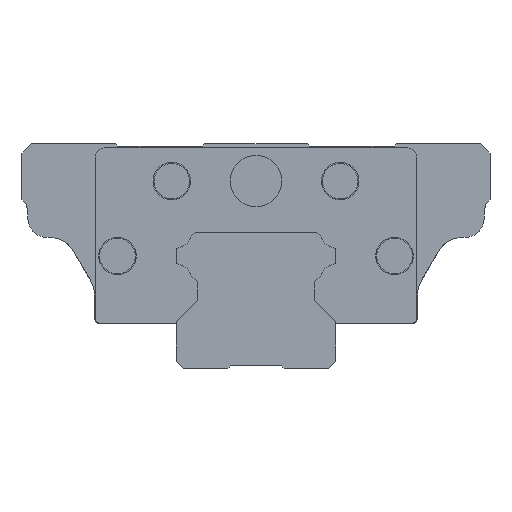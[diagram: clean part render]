
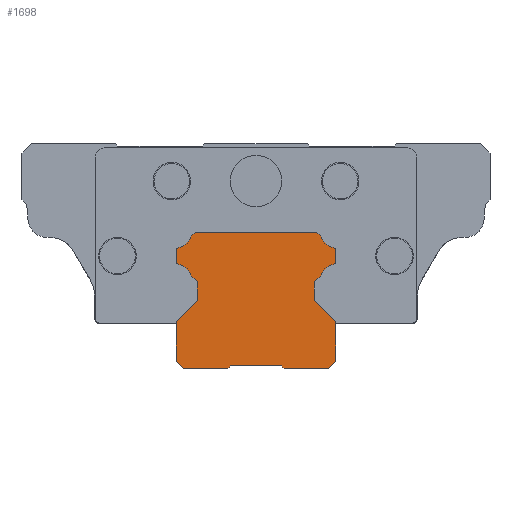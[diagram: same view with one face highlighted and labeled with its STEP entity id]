
A CAD part, left-side view. The second image highlights one B-rep face of the part: STEP entity #1698.
In plain terms, the highlighted planar face has unit normal (-1, 0, 0).
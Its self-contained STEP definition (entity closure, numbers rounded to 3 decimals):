
#758=CARTESIAN_POINT('',(0.0,-17.0,10.0));
#759=VERTEX_POINT('',#758);
#766=CARTESIAN_POINT('',(0.0,-17.0,1.5));
#767=VERTEX_POINT('',#766);
#768=CARTESIAN_POINT('',(0.0,-17.0,10.0));
#769=DIRECTION('',(0.0,0.0,-1.0));
#770=VECTOR('',#769,8.5);
#771=LINE('',#768,#770);
#772=EDGE_CURVE('',#759,#767,#771,.T.);
#796=CARTESIAN_POINT('',(0.0,-12.5,14.5));
#797=VERTEX_POINT('',#796);
#804=CARTESIAN_POINT('',(0.0,-12.5,14.5));
#805=DIRECTION('',(0.0,-0.707,-0.707));
#806=VECTOR('',#805,6.364);
#807=LINE('',#804,#806);
#808=EDGE_CURVE('',#797,#759,#807,.T.);
#827=CARTESIAN_POINT('',(0.0,-12.5,18.5));
#828=VERTEX_POINT('',#827);
#835=CARTESIAN_POINT('',(0.0,-12.5,18.5));
#836=DIRECTION('',(0.0,0.0,-1.0));
#837=VECTOR('',#836,4.);
#838=LINE('',#835,#837);
#839=EDGE_CURVE('',#828,#797,#838,.T.);
#858=CARTESIAN_POINT('',(0.0,-13.962,19.962));
#859=VERTEX_POINT('',#858);
#866=CARTESIAN_POINT('',(0.0,-13.962,19.962));
#867=DIRECTION('',(0.0,0.707,-0.707));
#868=VECTOR('',#867,2.068);
#869=LINE('',#866,#868);
#870=EDGE_CURVE('',#859,#828,#869,.T.);
#890=CARTESIAN_POINT('',(0.0,-16.469,22.156));
#891=VERTEX_POINT('',#890);
#898=CARTESIAN_POINT('',(0.0,-17.094,18.914));
#899=DIRECTION('',(-1.,0.0,0.0));
#900=DIRECTION('',(0.0,-0.948,-0.317));
#901=AXIS2_PLACEMENT_3D('',#898,#899,#900);
#902=CIRCLE('',#901,3.302);
#903=EDGE_CURVE('',#891,#859,#902,.T.);
#923=CARTESIAN_POINT('',(0.0,-17.0,22.796));
#924=VERTEX_POINT('',#923);
#931=CARTESIAN_POINT('',(0.0,-16.35,22.796));
#932=DIRECTION('',(1.0,0.0,0.0));
#933=DIRECTION('',(0.0,-1.0,0.0));
#934=AXIS2_PLACEMENT_3D('',#931,#932,#933);
#935=CIRCLE('',#934,0.65);
#936=EDGE_CURVE('',#924,#891,#935,.T.);
#955=CARTESIAN_POINT('',(0.0,-17.0,25.204));
#956=VERTEX_POINT('',#955);
#963=CARTESIAN_POINT('',(0.0,-17.0,25.204));
#964=DIRECTION('',(0.0,0.0,-1.0));
#965=VECTOR('',#964,2.409);
#966=LINE('',#963,#965);
#967=EDGE_CURVE('',#956,#924,#966,.T.);
#987=CARTESIAN_POINT('',(0.0,-16.469,25.843));
#988=VERTEX_POINT('',#987);
#995=CARTESIAN_POINT('',(0.0,-16.35,25.204));
#996=DIRECTION('',(1.,0.0,0.0));
#997=DIRECTION('',(0.0,-0.182,0.983));
#998=AXIS2_PLACEMENT_3D('',#995,#996,#997);
#999=CIRCLE('',#998,0.65);
#1000=EDGE_CURVE('',#988,#956,#999,.T.);
#1020=CARTESIAN_POINT('',(0.0,-13.962,28.038));
#1021=VERTEX_POINT('',#1020);
#1028=CARTESIAN_POINT('',(0.0,-17.094,29.086));
#1029=DIRECTION('',(-1.,0.0,0.0));
#1030=DIRECTION('',(0.0,-0.189,0.982));
#1031=AXIS2_PLACEMENT_3D('',#1028,#1029,#1030);
#1032=CIRCLE('',#1031,3.302);
#1033=EDGE_CURVE('',#1021,#988,#1032,.T.);
#1052=CARTESIAN_POINT('',(0.0,-13.,29.));
#1053=VERTEX_POINT('',#1052);
#1060=CARTESIAN_POINT('',(0.0,-13.,29.));
#1061=DIRECTION('',(0.0,-0.707,-0.707));
#1062=VECTOR('',#1061,1.361);
#1063=LINE('',#1060,#1062);
#1064=EDGE_CURVE('',#1053,#1021,#1063,.T.);
#1083=CARTESIAN_POINT('',(0.0,13.,29.));
#1084=VERTEX_POINT('',#1083);
#1091=CARTESIAN_POINT('',(0.0,13.,29.));
#1092=DIRECTION('',(0.0,-1.0,0.0));
#1093=VECTOR('',#1092,26.);
#1094=LINE('',#1091,#1093);
#1095=EDGE_CURVE('',#1084,#1053,#1094,.T.);
#1132=CARTESIAN_POINT('',(0.0,13.962,28.038));
#1133=VERTEX_POINT('',#1132);
#1140=CARTESIAN_POINT('',(0.0,13.962,28.038));
#1141=DIRECTION('',(0.0,-0.707,0.707));
#1142=VECTOR('',#1141,1.361);
#1143=LINE('',#1140,#1142);
#1144=EDGE_CURVE('',#1133,#1084,#1143,.T.);
#1164=CARTESIAN_POINT('',(0.0,16.469,25.843));
#1165=VERTEX_POINT('',#1164);
#1172=CARTESIAN_POINT('',(0.0,17.094,29.086));
#1173=DIRECTION('',(-1.,0.0,0.0));
#1174=DIRECTION('',(0.0,0.948,0.317));
#1175=AXIS2_PLACEMENT_3D('',#1172,#1173,#1174);
#1176=CIRCLE('',#1175,3.302);
#1177=EDGE_CURVE('',#1165,#1133,#1176,.T.);
#1197=CARTESIAN_POINT('',(0.0,17.,25.204));
#1198=VERTEX_POINT('',#1197);
#1205=CARTESIAN_POINT('',(0.0,16.35,25.204));
#1206=DIRECTION('',(1.0,0.0,0.0));
#1207=DIRECTION('',(0.0,1.0,0.0));
#1208=AXIS2_PLACEMENT_3D('',#1205,#1206,#1207);
#1209=CIRCLE('',#1208,0.65);
#1210=EDGE_CURVE('',#1198,#1165,#1209,.T.);
#1229=CARTESIAN_POINT('',(0.0,17.,22.796));
#1230=VERTEX_POINT('',#1229);
#1237=CARTESIAN_POINT('',(0.0,17.,22.796));
#1238=DIRECTION('',(0.0,0.0,1.0));
#1239=VECTOR('',#1238,2.409);
#1240=LINE('',#1237,#1239);
#1241=EDGE_CURVE('',#1230,#1198,#1240,.T.);
#1261=CARTESIAN_POINT('',(0.0,16.469,22.156));
#1262=VERTEX_POINT('',#1261);
#1269=CARTESIAN_POINT('',(0.0,16.35,22.796));
#1270=DIRECTION('',(1.0,0.0,0.0));
#1271=DIRECTION('',(0.0,0.182,-0.983));
#1272=AXIS2_PLACEMENT_3D('',#1269,#1270,#1271);
#1273=CIRCLE('',#1272,0.65);
#1274=EDGE_CURVE('',#1262,#1230,#1273,.T.);
#1294=CARTESIAN_POINT('',(0.0,13.962,19.962));
#1295=VERTEX_POINT('',#1294);
#1302=CARTESIAN_POINT('',(0.0,17.094,18.914));
#1303=DIRECTION('',(-1.0,0.0,0.0));
#1304=DIRECTION('',(0.0,0.189,-0.982));
#1305=AXIS2_PLACEMENT_3D('',#1302,#1303,#1304);
#1306=CIRCLE('',#1305,3.302);
#1307=EDGE_CURVE('',#1295,#1262,#1306,.T.);
#1326=CARTESIAN_POINT('',(0.0,12.5,18.5));
#1327=VERTEX_POINT('',#1326);
#1334=CARTESIAN_POINT('',(0.0,12.5,18.5));
#1335=DIRECTION('',(0.0,0.707,0.707));
#1336=VECTOR('',#1335,2.068);
#1337=LINE('',#1334,#1336);
#1338=EDGE_CURVE('',#1327,#1295,#1337,.T.);
#1357=CARTESIAN_POINT('',(0.0,12.5,14.5));
#1358=VERTEX_POINT('',#1357);
#1365=CARTESIAN_POINT('',(0.0,12.5,14.5));
#1366=DIRECTION('',(0.0,0.0,1.0));
#1367=VECTOR('',#1366,4.);
#1368=LINE('',#1365,#1367);
#1369=EDGE_CURVE('',#1358,#1327,#1368,.T.);
#1388=CARTESIAN_POINT('',(0.0,17.,10.0));
#1389=VERTEX_POINT('',#1388);
#1396=CARTESIAN_POINT('',(0.0,17.,10.0));
#1397=DIRECTION('',(0.0,-0.707,0.707));
#1398=VECTOR('',#1397,6.364);
#1399=LINE('',#1396,#1398);
#1400=EDGE_CURVE('',#1389,#1358,#1399,.T.);
#1419=CARTESIAN_POINT('',(0.0,17.0,1.5));
#1420=VERTEX_POINT('',#1419);
#1427=CARTESIAN_POINT('',(0.0,17.0,1.5));
#1428=DIRECTION('',(0.0,0.0,1.0));
#1429=VECTOR('',#1428,8.5);
#1430=LINE('',#1427,#1429);
#1431=EDGE_CURVE('',#1420,#1389,#1430,.T.);
#1450=CARTESIAN_POINT('',(0.0,15.5,0.0));
#1451=VERTEX_POINT('',#1450);
#1458=CARTESIAN_POINT('',(0.0,15.5,0.0));
#1459=DIRECTION('',(0.0,0.707,0.707));
#1460=VECTOR('',#1459,2.121);
#1461=LINE('',#1458,#1460);
#1462=EDGE_CURVE('',#1451,#1420,#1461,.T.);
#1481=CARTESIAN_POINT('',(0.0,6.,0.0));
#1482=VERTEX_POINT('',#1481);
#1489=CARTESIAN_POINT('',(0.0,6.,0.0));
#1490=DIRECTION('',(0.0,1.0,0.0));
#1491=VECTOR('',#1490,9.5);
#1492=LINE('',#1489,#1491);
#1493=EDGE_CURVE('',#1482,#1451,#1492,.T.);
#1512=CARTESIAN_POINT('',(0.0,5.5,0.5));
#1513=VERTEX_POINT('',#1512);
#1520=CARTESIAN_POINT('',(0.0,5.5,0.5));
#1521=DIRECTION('',(0.0,0.707,-0.707));
#1522=VECTOR('',#1521,0.707);
#1523=LINE('',#1520,#1522);
#1524=EDGE_CURVE('',#1513,#1482,#1523,.T.);
#1543=CARTESIAN_POINT('',(0.0,-5.5,0.5));
#1544=VERTEX_POINT('',#1543);
#1551=CARTESIAN_POINT('',(0.0,-5.5,0.5));
#1552=DIRECTION('',(0.0,1.0,0.0));
#1553=VECTOR('',#1552,11.0);
#1554=LINE('',#1551,#1553);
#1555=EDGE_CURVE('',#1544,#1513,#1554,.T.);
#1592=CARTESIAN_POINT('',(0.0,-6.,0.0));
#1593=VERTEX_POINT('',#1592);
#1600=CARTESIAN_POINT('',(0.0,-6.,0.0));
#1601=DIRECTION('',(0.0,0.707,0.707));
#1602=VECTOR('',#1601,0.707);
#1603=LINE('',#1600,#1602);
#1604=EDGE_CURVE('',#1593,#1544,#1603,.T.);
#1623=CARTESIAN_POINT('',(0.0,-15.5,0.0));
#1624=VERTEX_POINT('',#1623);
#1631=CARTESIAN_POINT('',(0.0,-15.5,0.0));
#1632=DIRECTION('',(0.0,1.0,0.0));
#1633=VECTOR('',#1632,9.5);
#1634=LINE('',#1631,#1633);
#1635=EDGE_CURVE('',#1624,#1593,#1634,.T.);
#1653=CARTESIAN_POINT('',(0.0,-17.0,1.5));
#1654=DIRECTION('',(0.0,0.707,-0.707));
#1655=VECTOR('',#1654,2.121);
#1656=LINE('',#1653,#1655);
#1657=EDGE_CURVE('',#767,#1624,#1656,.T.);
#1663=CARTESIAN_POINT('',(0.0,0.,14.329));
#1664=DIRECTION('',(1.0,0.0,0.0));
#1665=DIRECTION('',(0.0,0.0,-1.0));
#1666=AXIS2_PLACEMENT_3D('',#1663,#1664,#1665);
#1667=PLANE('',#1666);
#1668=ORIENTED_EDGE('',*,*,#1657,.F.);
#1669=ORIENTED_EDGE('',*,*,#772,.F.);
#1670=ORIENTED_EDGE('',*,*,#808,.F.);
#1671=ORIENTED_EDGE('',*,*,#839,.F.);
#1672=ORIENTED_EDGE('',*,*,#870,.F.);
#1673=ORIENTED_EDGE('',*,*,#903,.F.);
#1674=ORIENTED_EDGE('',*,*,#936,.F.);
#1675=ORIENTED_EDGE('',*,*,#967,.F.);
#1676=ORIENTED_EDGE('',*,*,#1000,.F.);
#1677=ORIENTED_EDGE('',*,*,#1033,.F.);
#1678=ORIENTED_EDGE('',*,*,#1064,.F.);
#1679=ORIENTED_EDGE('',*,*,#1095,.F.);
#1680=ORIENTED_EDGE('',*,*,#1144,.F.);
#1681=ORIENTED_EDGE('',*,*,#1177,.F.);
#1682=ORIENTED_EDGE('',*,*,#1210,.F.);
#1683=ORIENTED_EDGE('',*,*,#1241,.F.);
#1684=ORIENTED_EDGE('',*,*,#1274,.F.);
#1685=ORIENTED_EDGE('',*,*,#1307,.F.);
#1686=ORIENTED_EDGE('',*,*,#1338,.F.);
#1687=ORIENTED_EDGE('',*,*,#1369,.F.);
#1688=ORIENTED_EDGE('',*,*,#1400,.F.);
#1689=ORIENTED_EDGE('',*,*,#1431,.F.);
#1690=ORIENTED_EDGE('',*,*,#1462,.F.);
#1691=ORIENTED_EDGE('',*,*,#1493,.F.);
#1692=ORIENTED_EDGE('',*,*,#1524,.F.);
#1693=ORIENTED_EDGE('',*,*,#1555,.F.);
#1694=ORIENTED_EDGE('',*,*,#1604,.F.);
#1695=ORIENTED_EDGE('',*,*,#1635,.F.);
#1696=EDGE_LOOP('',(#1668,#1669,#1670,#1671,#1672,#1673,#1674,#1675,#1676,#1677,#1678,#1679,#1680,#1681,#1682,#1683,#1684,#1685,#1686,#1687,#1688,#1689,#1690,#1691,#1692,#1693,#1694,#1695));
#1697=FACE_OUTER_BOUND('',#1696,.T.);
#1698=ADVANCED_FACE('',(#1697),#1667,.F.);
